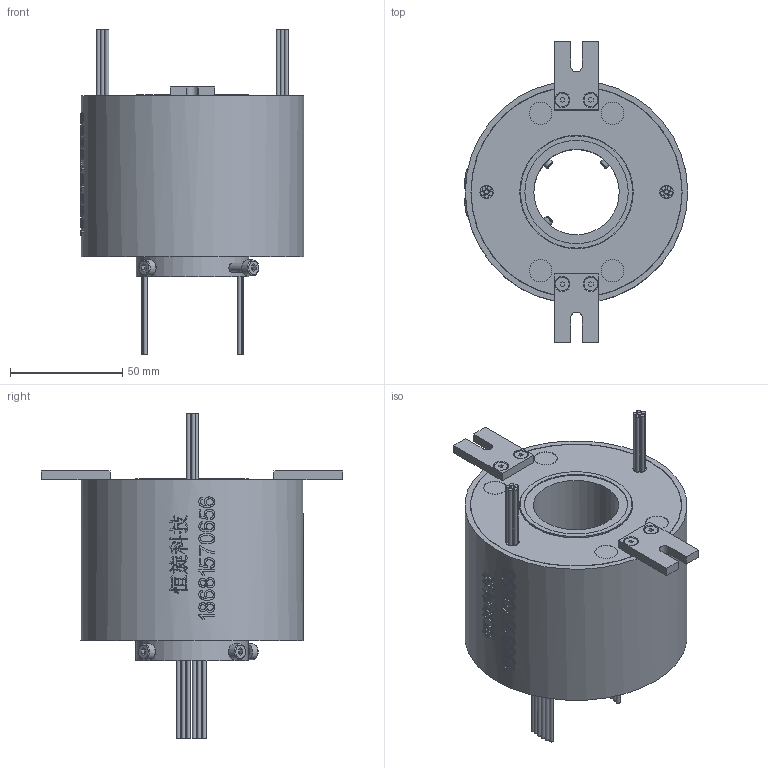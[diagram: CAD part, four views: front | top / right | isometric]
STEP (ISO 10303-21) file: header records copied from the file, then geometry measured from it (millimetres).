
FILE_DESCRIPTION(/* description */ (''),/* implementation_level */ '2;1');
FILE_NAME(/* name */ 'HD3899-1210-3D模型.stp',/* time_stamp */ '2025-09-04T08:51:11+08:00',/* author */ (''),/* organization */ (''),/* preprocessor_version */ 'ST-DEVELOPER v16.7',/* originating_system */ 'SIEMENS PLM Software NX 12.0',/* authorisation */ '');
FILE_SCHEMA (('AUTOMOTIVE_DESIGN { 1 0 10303 214 3 1 1 1 }'));
Length unit declared in the file: millimetre
Products named in the file (1): Admi3138F06C1fi0
Bounding box: 99.47 x 134 x 145.1 mm (x, y, z)
Volume: 483953.7 mm3; surface area: 54896.1 mm2
Topology: 1 solids, 1 shells, 797 faces, 2068 edges, 1376 vertices
Faces by surface type: plane 362, extrusion 313, cylinder 80, bspline 30, cone 8, torus 4
Full cylindrical faces by diameter (mm): 1.8 x24, 3.4 x1, 4 x7, 6 x6, 7 x4, 10 x4, 38 x1, 46 x1, 50 x2, 50.5 x2, 93.9 x2, 94 x2, 99 x1
Entity records: 30022 total; most frequent: CARTESIAN_POINT 13258, ORIENTED_EDGE 3960, DIRECTION 2177, EDGE_CURVE 1980, B_SPLINE_CURVE_WITH_KNOTS 1644, VERTEX_POINT 1357, EDGE_LOOP 975, ADVANCED_FACE 797
